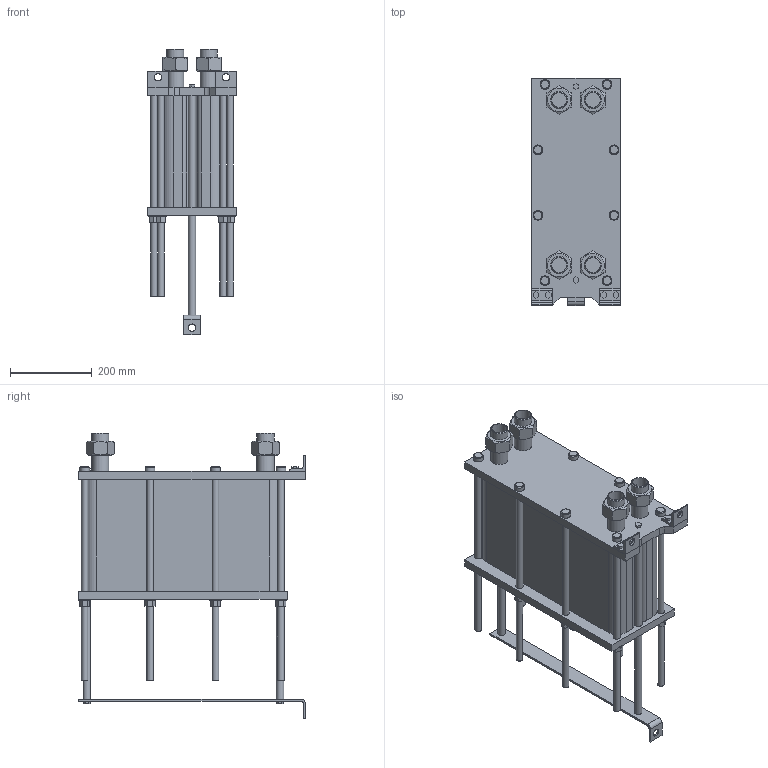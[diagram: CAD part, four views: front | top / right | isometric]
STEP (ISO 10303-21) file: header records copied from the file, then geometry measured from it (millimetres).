
FILE_DESCRIPTION(/* description */ (''),/* implementation_level */ '2;1');
FILE_NAME(/* name */ 'C:\Users\zhuro\Desktop\ENCO\TO\ЭН-004\ЭН-0,5-004-88-1.stp',/* time_stamp */ '2022-06-06T10:51:02+03:00',/* author */ ('zhuro'),/* organization */ (''),/* preprocessor_version */ 'ST-DEVELOPER v18.1',/* originating_system */ 'Autodesk Inventor 2022',/* authorisation */ '');
FILE_SCHEMA (('AUTOMOTIVE_DESIGN { 1 0 10303 214 3 1 1 }'));
Length unit declared in the file: millimetre
Products named in the file (1): ЭН-0,5-004-88-1
Bounding box: 216 x 555 x 699.4 mm (x, y, z)
Volume: 26171361.4 mm3; surface area: 1549426.6 mm2
Topology: 40 solids, 40 shells, 403 faces, 865 edges, 574 vertices
Faces by surface type: plane 272, cylinder 103, cone 28
Full cylindrical faces by diameter (mm): 10 x4, 16 x16, 18 x29, 20 x2, 24 x8, 28 x8, 36.3 x5, 42.3 x9
Entity records: 11137 total; most frequent: CARTESIAN_POINT 1939, DIRECTION 1879, ORIENTED_EDGE 1730, EDGE_CURVE 865, AXIS2_PLACEMENT_3D 658, VERTEX_POINT 574, LINE 563, VECTOR 563
